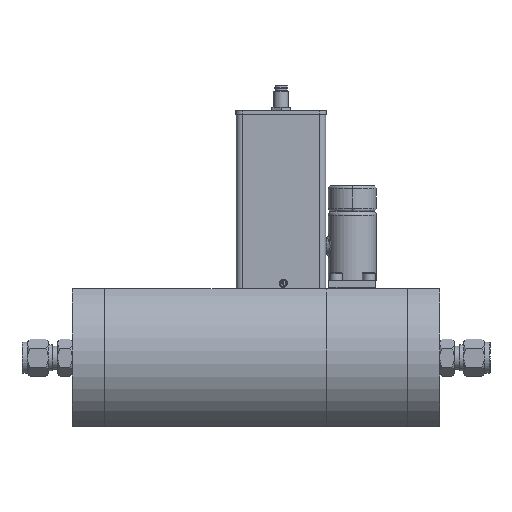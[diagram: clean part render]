
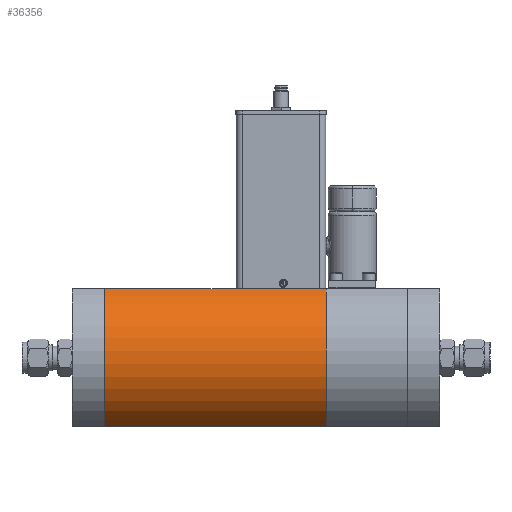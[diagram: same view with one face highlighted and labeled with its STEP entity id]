
A CAD part, top view. The second image highlights one B-rep face of the part: STEP entity #36356.
In plain terms, the highlighted cylindrical face has radius 42 mm (diameter 84 mm), a partial arc.
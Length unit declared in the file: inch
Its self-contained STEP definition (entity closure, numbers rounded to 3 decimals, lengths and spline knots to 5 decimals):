
#1670 = LINE ( 'NONE', #42193, #66510 ) ;
#5203 = VECTOR ( 'NONE', #9721, 39.37008 ) ;
#9721 = DIRECTION ( 'NONE',  ( -1., 0., 0. ) ) ;
#14030 = ORIENTED_EDGE ( 'NONE', *, *, #66484, .T. ) ;
#21875 = DIRECTION ( 'NONE',  ( 1., 0., 0. ) ) ;
#24129 = CARTESIAN_POINT ( 'NONE',  ( 1.99617, -1.45201, 0.02996 ) ) ;
#29517 = CIRCLE ( 'NONE', #71453, 1.65354 ) ;
#32619 = CARTESIAN_POINT ( 'NONE',  ( -12.72824, 1.485, 0.02996 ) ) ;
#33791 = VERTEX_POINT ( 'NONE', #52633 ) ;
#33920 = CARTESIAN_POINT ( 'NONE',  ( 1.99617, 0.0165, -0.73011 ) ) ;
#34201 = DIRECTION ( 'NONE',  ( 0., 1., 0. ) ) ;
#34602 = ORIENTED_EDGE ( 'NONE', *, *, #64826, .T. ) ;
#36163 = EDGE_LOOP ( 'NONE', ( #34602, #37135, #14030, #36408 ) ) ;
#36356 = ADVANCED_FACE ( 'NONE', ( #48913 ), #55253, .T. ) ;
#36408 = ORIENTED_EDGE ( 'NONE', *, *, #54883, .T. ) ;
#37135 = ORIENTED_EDGE ( 'NONE', *, *, #56471, .F. ) ;
#39942 = CARTESIAN_POINT ( 'NONE',  ( -2.72824, -1.45201, 0.02996 ) ) ;
#42193 = CARTESIAN_POINT ( 'NONE',  ( -2.72824, -1.45201, 0.02996 ) ) ;
#44054 = VERTEX_POINT ( 'NONE', #72023 ) ;
#46717 = DIRECTION ( 'NONE',  ( 1., 0., 0. ) ) ;
#47609 = CIRCLE ( 'NONE', #69212, 1.65354 ) ;
#48913 = FACE_OUTER_BOUND ( 'NONE', #36163, .T. ) ;
#50763 = DIRECTION ( 'NONE',  ( -1., 0., 0. ) ) ;
#52442 = VERTEX_POINT ( 'NONE', #24129 ) ;
#52633 = CARTESIAN_POINT ( 'NONE',  ( -2.72824, 1.485, 0.02996 ) ) ;
#54883 = EDGE_CURVE ( 'NONE', #52442, #44054, #47609, .T. ) ;
#55253 = CYLINDRICAL_SURFACE ( 'NONE', #63196, 1.65354 ) ;
#56471 = EDGE_CURVE ( 'NONE', #63469, #33791, #29517, .T. ) ;
#56756 = DIRECTION ( 'NONE',  ( 0., 1., 0. ) ) ;
#60899 = DIRECTION ( 'NONE',  ( 0., 1., 0. ) ) ;
#62316 = DIRECTION ( 'NONE',  ( -1., 0., 0. ) ) ;
#63059 = CARTESIAN_POINT ( 'NONE',  ( -2.72824, 0.0165, -0.73011 ) ) ;
#63196 = AXIS2_PLACEMENT_3D ( 'NONE', #72183, #21875, #60899 ) ;
#63469 = VERTEX_POINT ( 'NONE', #39942 ) ;
#64826 = EDGE_CURVE ( 'NONE', #44054, #33791, #67844, .T. ) ;
#66484 = EDGE_CURVE ( 'NONE', #63469, #52442, #1670, .T. ) ;
#66510 = VECTOR ( 'NONE', #46717, 39.37008 ) ;
#67844 = LINE ( 'NONE', #32619, #5203 ) ;
#69212 = AXIS2_PLACEMENT_3D ( 'NONE', #33920, #50763, #56756 ) ;
#71453 = AXIS2_PLACEMENT_3D ( 'NONE', #63059, #62316, #34201 ) ;
#72023 = CARTESIAN_POINT ( 'NONE',  ( 1.99617, 1.485, 0.02996 ) ) ;
#72183 = CARTESIAN_POINT ( 'NONE',  ( -2.72824, 0.0165, -0.73011 ) ) ;
